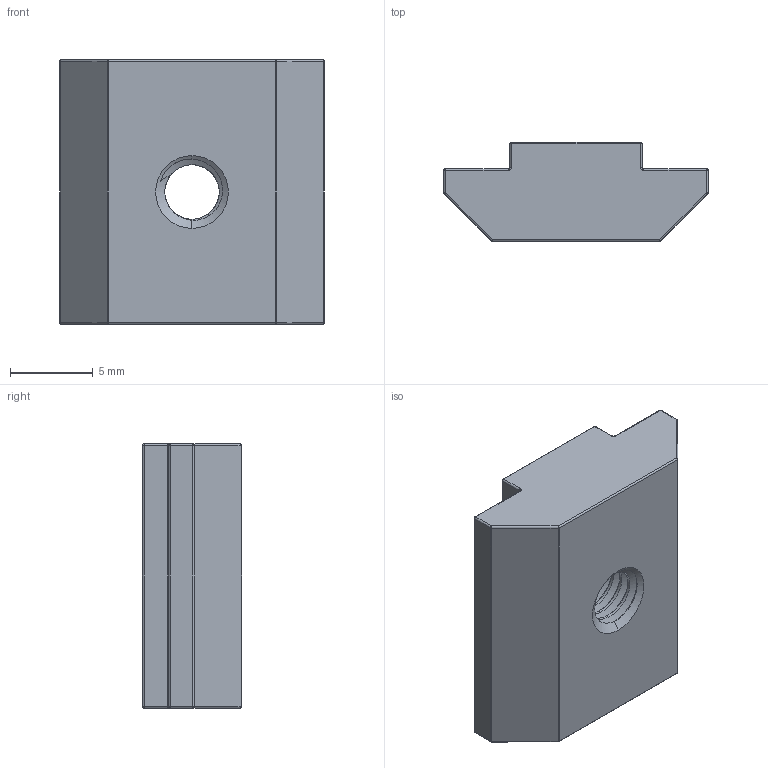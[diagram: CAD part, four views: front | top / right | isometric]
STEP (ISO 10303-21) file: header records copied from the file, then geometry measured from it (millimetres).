
FILE_DESCRIPTION (( 'STEP AP203' ), '1' );
FILE_NAME ('TANLN-AL-30-M4.STEP', '2026-08-25T07:41:53', ( '' ), ( '' ), 'SwSTEP 2.0', 'SolidWorks 2020', '' );
FILE_SCHEMA (( 'CONFIG_CONTROL_DESIGN' ));
Length unit declared in the file: millimetre
Products named in the file (1): TANLN-AL-30-M4
Bounding box: 16 x 6 x 16 mm (x, y, z)
Volume: 1132.5 mm3; surface area: 874.9 mm2
Topology: 1 solids, 1 shells, 85 faces, 205 edges, 110 vertices
Faces by surface type: cylinder 46, sphere 16, plane 12, cone 4, torus 4, bspline 3
Entity records: 5056 total; most frequent: CARTESIAN_POINT 3153, ORIENTED_EDGE 386, DIRECTION 385, EDGE_CURVE 193, AXIS2_PLACEMENT_3D 153, VERTEX_POINT 110, EDGE_LOOP 87, FACE_OUTER_BOUND 85
